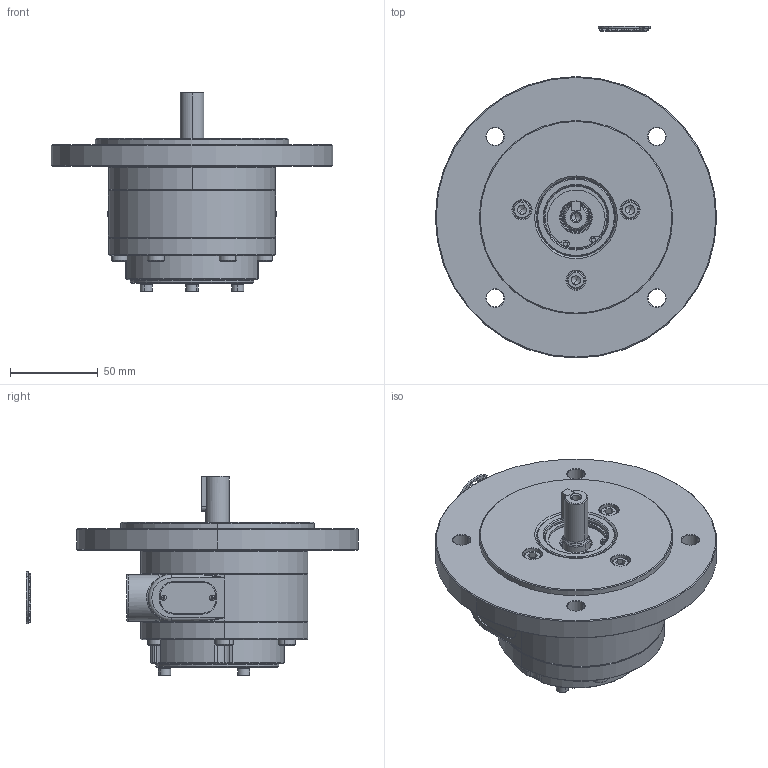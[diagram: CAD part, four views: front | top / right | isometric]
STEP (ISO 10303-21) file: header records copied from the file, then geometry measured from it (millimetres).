
FILE_DESCRIPTION (( 'STEP AP214' ), '1' );
FILE_NAME ('2VMD-IEC (Alu. End Plates)_23-04-26.STEP', '2026-04-23T10:08:50', ( '' ), ( '' ), 'SwSTEP 2.0', 'SolidWorks 2017', '' );
FILE_SCHEMA (( 'AUTOMOTIVE_DESIGN' ));
Length unit declared in the file: millimetre
Products named in the file (2): 2VMD-IEC (Alu. End Plates)_23-04-26
Bounding box: 160 x 188.8 x 113.6 mm (x, y, z)
Volume: 385073.7 mm3; surface area: 144660.1 mm2
Topology: 37 solids, 37 shells, 1119 faces, 2684 edges, 1645 vertices
Faces by surface type: plane 471, cylinder 342, cone 207, torus 75, bspline 24
Entity records: 48913 total; most frequent: CARTESIAN_POINT 8197, DIRECTION 6025, ORIENTED_EDGE 5542, EDGE_CURVE 2771, AXIS2_PLACEMENT_3D 2289, VERTEX_POINT 1727, VECTOR 1447, LINE 1447
